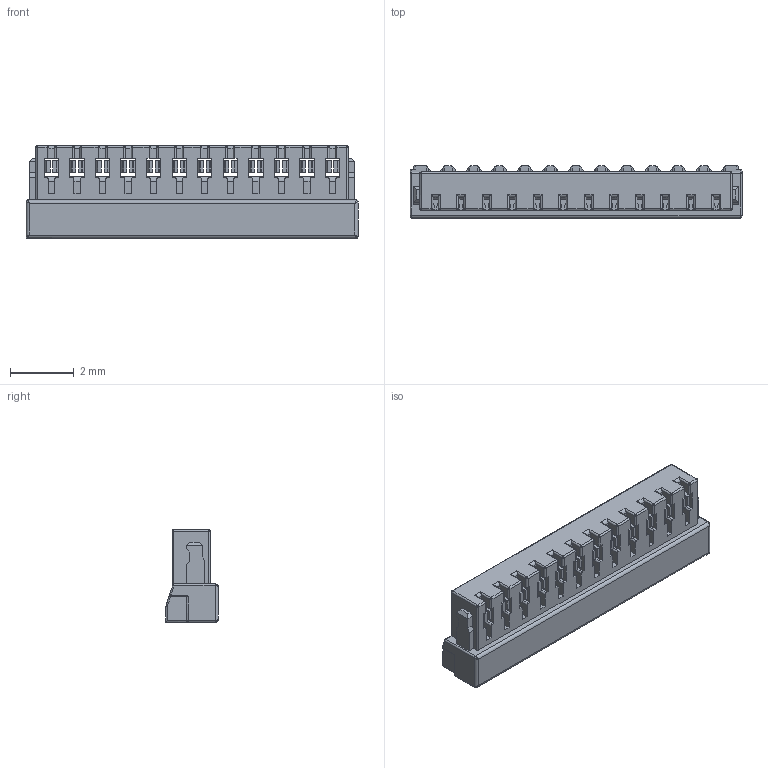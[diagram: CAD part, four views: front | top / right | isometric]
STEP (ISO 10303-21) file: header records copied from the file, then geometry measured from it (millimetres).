
FILE_DESCRIPTION((''),'2;1');
FILE_NAME('SCT0800HI-12','2023-03-26T10:17:45',('Administrator'),(''),'CREO PARAMETRIC BY PTC INC, 2018050','CREO PARAMETRIC BY PTC INC, 2018050','');
FILE_SCHEMA(('CONFIG_CONTROL_DESIGN'));
Products named in the file (1): SCT0800HI-12
Bounding box: 10.4 x 1.65 x 2.9 mm (x, y, z)
Surface area: 198.4 mm2 (no closed solid volume)
Topology: 0 solids, 1 shells, 2123 faces, 6182 edges, 3895 vertices
Faces by surface type: plane 1424, cylinder 625, sphere 68, bspline 5, torus 1
Entity records: 69535 total; most frequent: CARTESIAN_POINT 12937, ORIENTED_EDGE 12263, DIRECTION 11489, EDGE_CURVE 6137, VECTOR 4799, LINE 4799, VERTEX_POINT 3895, AXIS2_PLACEMENT_3D 3345
